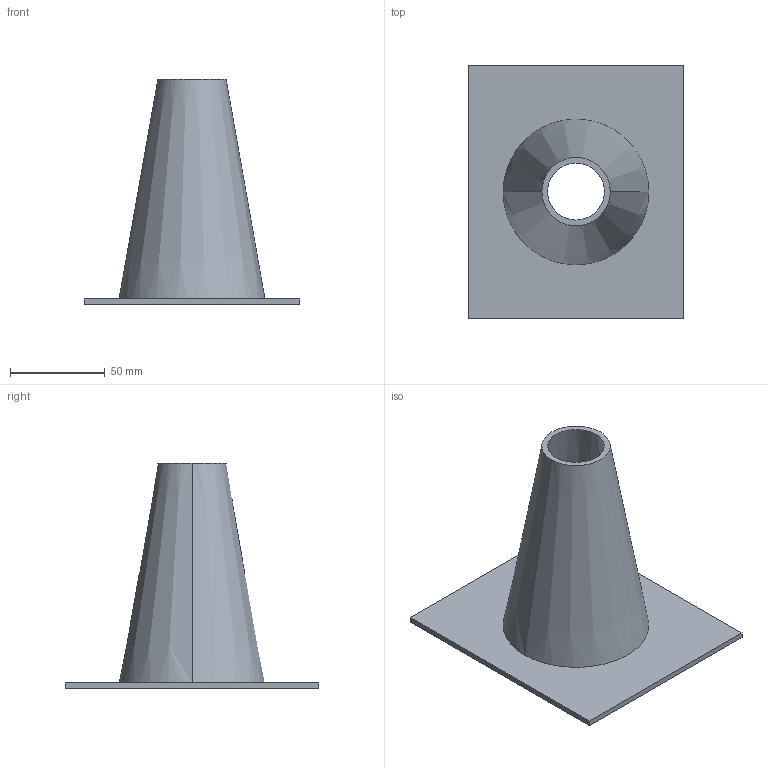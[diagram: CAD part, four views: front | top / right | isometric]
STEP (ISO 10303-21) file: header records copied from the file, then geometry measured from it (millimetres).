
FILE_DESCRIPTION(('CATIA V5 STEP Exchange'),'2;1');
FILE_NAME('C:\_Andres\UNIVERSIDAD\IQS\ASIGNATURAS\DAO\EXF\EXF-15161c\1original\Santolària_Rossell_Ej08-ensambla_v24.stp','2016-03-04T21:37:19+00:00',('none'),('none'),'CATIA Version 5 Release 20 SP 1 (IN-10)','CATIA V5 STEP AP203','none');
FILE_SCHEMA(('CONFIG_CONTROL_DESIGN'));
Length unit declared in the file: millimetre
Products named in the file (1): Santolària_Rossell_Ej08-ensambla_v24
Bounding box: 114 x 134 x 119 mm (x, y, z)
Volume: 93196 mm3; surface area: 63910.8 mm2
Topology: 1 solids, 1 shells, 11 faces, 24 edges, 16 vertices
Faces by surface type: plane 7, cone 4
Entity records: 414 total; most frequent: CARTESIAN_POINT 127, ORIENTED_EDGE 48, DIRECTION 44, EDGE_CURVE 24, AXIS2_PLACEMENT_3D 17, VECTOR 16, LINE 16, VERTEX_POINT 16
